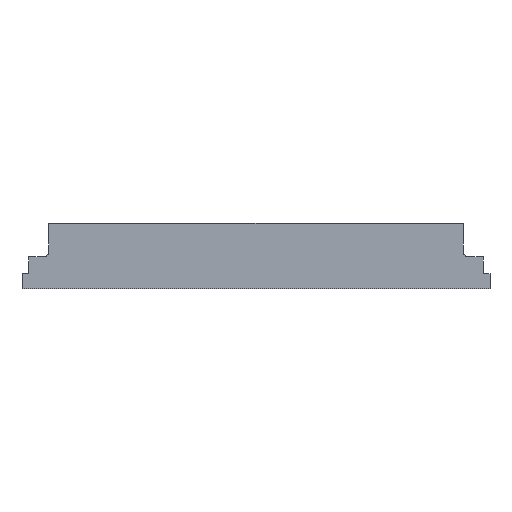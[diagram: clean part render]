
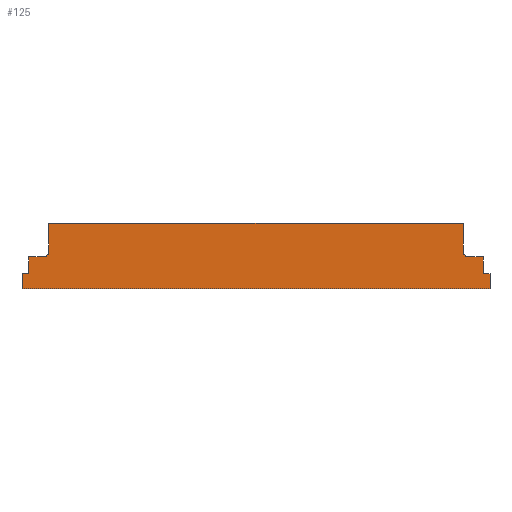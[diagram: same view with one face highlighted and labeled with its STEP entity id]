
A CAD part, top view. The second image highlights one B-rep face of the part: STEP entity #125.
In plain terms, the highlighted planar face has unit normal (0, 0, 1).
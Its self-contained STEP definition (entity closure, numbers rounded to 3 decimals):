
#7 = ORIENTED_EDGE ( 'NONE', *, *, #574, .T. ) ;
#9 = CARTESIAN_POINT ( 'NONE',  ( 209., 13.5, 3.2 ) ) ;
#12 = ORIENTED_EDGE ( 'NONE', *, *, #343, .T. ) ;
#14 = VECTOR ( 'NONE', #312, 1000. ) ;
#21 = ORIENTED_EDGE ( 'NONE', *, *, #134, .T. ) ;
#31 = LINE ( 'NONE', #78, #603 ) ;
#32 = CARTESIAN_POINT ( 'NONE',  ( -190., 28.5, 3.2 ) ) ;
#40 = VERTEX_POINT ( 'NONE', #128 ) ;
#42 = CARTESIAN_POINT ( 'NONE',  ( 209., 0., 3.2 ) ) ;
#48 = ORIENTED_EDGE ( 'NONE', *, *, #369, .T. ) ;
#64 = CARTESIAN_POINT ( 'NONE',  ( 209., 13.5, 3.2 ) ) ;
#70 = LINE ( 'NONE', #462, #270 ) ;
#72 = CARTESIAN_POINT ( 'NONE',  ( -203., 28.5, 3.2 ) ) ;
#74 = EDGE_CURVE ( 'NONE', #497, #598, #626, .T. ) ;
#76 = DIRECTION ( 'NONE',  ( 1., 0., 0. ) ) ;
#78 = CARTESIAN_POINT ( 'NONE',  ( -185., 28.5, 3.2 ) ) ;
#88 = FACE_OUTER_BOUND ( 'NONE', #466, .T. ) ;
#92 = CARTESIAN_POINT ( 'NONE',  ( -185., 58.5, 3.2 ) ) ;
#93 = VERTEX_POINT ( 'NONE', #32 ) ;
#108 = DIRECTION ( 'NONE',  ( -1., 0., 0. ) ) ;
#121 = VERTEX_POINT ( 'NONE', #176 ) ;
#125 = ADVANCED_FACE ( 'NONE', ( #88 ), #220, .T. ) ;
#128 = CARTESIAN_POINT ( 'NONE',  ( 204., 13.5, 3.2 ) ) ;
#134 = EDGE_CURVE ( 'NONE', #140, #93, #500, .T. ) ;
#137 = ORIENTED_EDGE ( 'NONE', *, *, #207, .T. ) ;
#140 = VERTEX_POINT ( 'NONE', #330 ) ;
#146 = CARTESIAN_POINT ( 'NONE',  ( -204., 13.5, 3.2 ) ) ;
#151 = VECTOR ( 'NONE', #108, 1000. ) ;
#153 = LINE ( 'NONE', #498, #384 ) ;
#157 = CARTESIAN_POINT ( 'NONE',  ( 209., 0., 3.2 ) ) ;
#160 = AXIS2_PLACEMENT_3D ( 'NONE', #390, #537, #587 ) ;
#161 = DIRECTION ( 'NONE',  ( 0., 0., -1. ) ) ;
#163 = LINE ( 'NONE', #157, #417 ) ;
#172 = LINE ( 'NONE', #372, #611 ) ;
#176 = CARTESIAN_POINT ( 'NONE',  ( 190., 28.5, 3.2 ) ) ;
#179 = DIRECTION ( 'NONE',  ( 1., 0., 0. ) ) ;
#184 = CARTESIAN_POINT ( 'NONE',  ( 185., 58.5, 3.2 ) ) ;
#194 = DIRECTION ( 'NONE',  ( 0., 1., 0. ) ) ;
#206 = DIRECTION ( 'NONE',  ( -1., 0., 0. ) ) ;
#207 = EDGE_CURVE ( 'NONE', #93, #415, #172, .T. ) ;
#209 = VECTOR ( 'NONE', #206, 1000. ) ;
#212 = EDGE_CURVE ( 'NONE', #257, #640, #581, .T. ) ;
#214 = VERTEX_POINT ( 'NONE', #489 ) ;
#217 = AXIS2_PLACEMENT_3D ( 'NONE', #381, #276, #179 ) ;
#220 = PLANE ( 'NONE',  #451 ) ;
#230 = EDGE_CURVE ( 'NONE', #365, #266, #546, .T. ) ;
#231 = CARTESIAN_POINT ( 'NONE',  ( -185., 58.5, 3.2 ) ) ;
#233 = EDGE_CURVE ( 'NONE', #260, #257, #153, .T. ) ;
#239 = VECTOR ( 'NONE', #527, 1000. ) ;
#254 = ORIENTED_EDGE ( 'NONE', *, *, #586, .T. ) ;
#256 = CARTESIAN_POINT ( 'NONE',  ( 203., 14.5, 3.2 ) ) ;
#257 = VERTEX_POINT ( 'NONE', #184 ) ;
#260 = VERTEX_POINT ( 'NONE', #533 ) ;
#266 = VERTEX_POINT ( 'NONE', #594 ) ;
#267 = CARTESIAN_POINT ( 'NONE',  ( 209., 0., 3.2 ) ) ;
#269 = VECTOR ( 'NONE', #639, 1000. ) ;
#270 = VECTOR ( 'NONE', #554, 1000. ) ;
#276 = DIRECTION ( 'NONE',  ( 0., 0., -1. ) ) ;
#284 = DIRECTION ( 'NONE',  ( 1., 0., 0. ) ) ;
#286 = ORIENTED_EDGE ( 'NONE', *, *, #464, .T. ) ;
#294 = CIRCLE ( 'NONE', #160, 5. ) ;
#301 = VERTEX_POINT ( 'NONE', #146 ) ;
#304 = VECTOR ( 'NONE', #194, 1000. ) ;
#306 = CIRCLE ( 'NONE', #520, 1. ) ;
#311 = EDGE_CURVE ( 'NONE', #121, #260, #294, .T. ) ;
#312 = DIRECTION ( 'NONE',  ( -1., 0., 0. ) ) ;
#325 = CIRCLE ( 'NONE', #470, 1. ) ;
#330 = CARTESIAN_POINT ( 'NONE',  ( -185., 33.5, 3.2 ) ) ;
#334 = ORIENTED_EDGE ( 'NONE', *, *, #363, .T. ) ;
#343 = EDGE_CURVE ( 'NONE', #266, #121, #445, .T. ) ;
#349 = DIRECTION ( 'NONE',  ( -1., 0., 0. ) ) ;
#360 = ORIENTED_EDGE ( 'NONE', *, *, #395, .T. ) ;
#361 = DIRECTION ( 'NONE',  ( 0., 1., 0. ) ) ;
#363 = EDGE_CURVE ( 'NONE', #391, #497, #70, .T. ) ;
#365 = VERTEX_POINT ( 'NONE', #256 ) ;
#369 = EDGE_CURVE ( 'NONE', #40, #365, #306, .T. ) ;
#372 = CARTESIAN_POINT ( 'NONE',  ( -203., 28.5, 3.2 ) ) ;
#381 = CARTESIAN_POINT ( 'NONE',  ( -190., 33.5, 3.2 ) ) ;
#384 = VECTOR ( 'NONE', #397, 1000. ) ;
#390 = CARTESIAN_POINT ( 'NONE',  ( 190., 33.5, 3.2 ) ) ;
#391 = VERTEX_POINT ( 'NONE', #551 ) ;
#395 = EDGE_CURVE ( 'NONE', #301, #391, #564, .T. ) ;
#397 = DIRECTION ( 'NONE',  ( 0., 1., 0. ) ) ;
#401 = ORIENTED_EDGE ( 'NONE', *, *, #212, .T. ) ;
#414 = DIRECTION ( 'NONE',  ( 0., 0., -1. ) ) ;
#415 = VERTEX_POINT ( 'NONE', #72 ) ;
#417 = VECTOR ( 'NONE', #361, 1000. ) ;
#419 = LINE ( 'NONE', #625, #239 ) ;
#427 = VECTOR ( 'NONE', #76, 1000. ) ;
#445 = LINE ( 'NONE', #508, #209 ) ;
#451 = AXIS2_PLACEMENT_3D ( 'NONE', #571, #623, #284 ) ;
#453 = DIRECTION ( 'NONE',  ( 1., 0., 0. ) ) ;
#462 = CARTESIAN_POINT ( 'NONE',  ( -209., 0., 3.2 ) ) ;
#464 = EDGE_CURVE ( 'NONE', #214, #40, #505, .T. ) ;
#465 = DIRECTION ( 'NONE',  ( 0., -1., 0. ) ) ;
#466 = EDGE_LOOP ( 'NONE', ( #629, #286, #48, #523, #12, #624, #608, #401, #7, #21, #137, #605, #254, #360, #334, #632 ) ) ;
#468 = CARTESIAN_POINT ( 'NONE',  ( -203., 14.5, 3.2 ) ) ;
#470 = AXIS2_PLACEMENT_3D ( 'NONE', #618, #414, #566 ) ;
#472 = EDGE_CURVE ( 'NONE', #598, #214, #163, .T. ) ;
#485 = CARTESIAN_POINT ( 'NONE',  ( 203., 13.5, 3.2 ) ) ;
#489 = CARTESIAN_POINT ( 'NONE',  ( 209., 13.5, 3.2 ) ) ;
#497 = VERTEX_POINT ( 'NONE', #570 ) ;
#498 = CARTESIAN_POINT ( 'NONE',  ( 185., 28.5, 3.2 ) ) ;
#500 = CIRCLE ( 'NONE', #217, 5. ) ;
#505 = LINE ( 'NONE', #9, #14 ) ;
#508 = CARTESIAN_POINT ( 'NONE',  ( -203., 28.5, 3.2 ) ) ;
#520 = AXIS2_PLACEMENT_3D ( 'NONE', #607, #161, #453 ) ;
#523 = ORIENTED_EDGE ( 'NONE', *, *, #230, .T. ) ;
#527 = DIRECTION ( 'NONE',  ( 0., -1., 0. ) ) ;
#533 = CARTESIAN_POINT ( 'NONE',  ( 185., 33.5, 3.2 ) ) ;
#537 = DIRECTION ( 'NONE',  ( 0., 0., -1. ) ) ;
#546 = LINE ( 'NONE', #485, #304 ) ;
#551 = CARTESIAN_POINT ( 'NONE',  ( -209., 13.5, 3.2 ) ) ;
#554 = DIRECTION ( 'NONE',  ( 0., -1., 0. ) ) ;
#556 = EDGE_CURVE ( 'NONE', #415, #601, #419, .T. ) ;
#564 = LINE ( 'NONE', #64, #151 ) ;
#566 = DIRECTION ( 'NONE',  ( 1., 0., 0. ) ) ;
#570 = CARTESIAN_POINT ( 'NONE',  ( -209., 0., 3.2 ) ) ;
#571 = CARTESIAN_POINT ( 'NONE',  ( 0., 0., 3.2 ) ) ;
#574 = EDGE_CURVE ( 'NONE', #640, #140, #31, .T. ) ;
#581 = LINE ( 'NONE', #92, #269 ) ;
#586 = EDGE_CURVE ( 'NONE', #601, #301, #325, .T. ) ;
#587 = DIRECTION ( 'NONE',  ( 1., 0., 0. ) ) ;
#594 = CARTESIAN_POINT ( 'NONE',  ( 203., 28.5, 3.2 ) ) ;
#598 = VERTEX_POINT ( 'NONE', #267 ) ;
#601 = VERTEX_POINT ( 'NONE', #468 ) ;
#603 = VECTOR ( 'NONE', #465, 1000. ) ;
#605 = ORIENTED_EDGE ( 'NONE', *, *, #556, .T. ) ;
#607 = CARTESIAN_POINT ( 'NONE',  ( 204., 14.5, 3.2 ) ) ;
#608 = ORIENTED_EDGE ( 'NONE', *, *, #233, .T. ) ;
#611 = VECTOR ( 'NONE', #349, 1000. ) ;
#618 = CARTESIAN_POINT ( 'NONE',  ( -204., 14.5, 3.2 ) ) ;
#623 = DIRECTION ( 'NONE',  ( 0., 0., 1. ) ) ;
#624 = ORIENTED_EDGE ( 'NONE', *, *, #311, .T. ) ;
#625 = CARTESIAN_POINT ( 'NONE',  ( -203., 13.5, 3.2 ) ) ;
#626 = LINE ( 'NONE', #42, #427 ) ;
#629 = ORIENTED_EDGE ( 'NONE', *, *, #472, .T. ) ;
#632 = ORIENTED_EDGE ( 'NONE', *, *, #74, .T. ) ;
#639 = DIRECTION ( 'NONE',  ( -1., 0., 0. ) ) ;
#640 = VERTEX_POINT ( 'NONE', #231 ) ;
